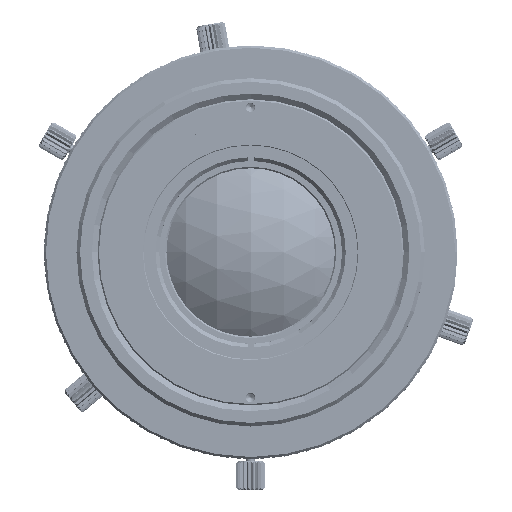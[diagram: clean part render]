
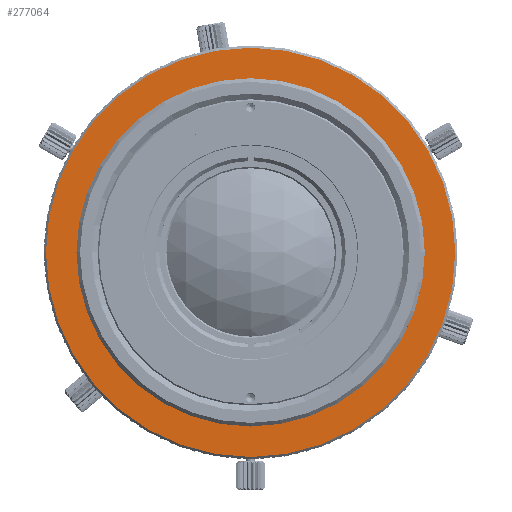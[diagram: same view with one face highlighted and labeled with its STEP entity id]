
A CAD part, top view. The second image highlights one B-rep face of the part: STEP entity #277064.
In plain terms, the highlighted planar face has unit normal (0, 0, 1).
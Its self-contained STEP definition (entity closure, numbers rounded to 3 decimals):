
#276362=CARTESIAN_POINT('',(0.,0.,75.3));
#276363=DIRECTION('',(0.,0.,1.));
#276364=DIRECTION('',(-1.,0.,0.));
#276365=AXIS2_PLACEMENT_3D('',#276362,#276363,#276364);
#276367=CARTESIAN_POINT('',(0.,0.,75.3));
#276368=DIRECTION('',(0.,0.,1.));
#276369=DIRECTION('',(1.,0.,0.));
#276370=AXIS2_PLACEMENT_3D('',#276367,#276368,#276369);
#276372=CARTESIAN_POINT('',(0.,0.,75.3));
#276373=DIRECTION('',(0.,0.,-1.));
#276374=DIRECTION('',(-1.,0.,0.));
#276375=AXIS2_PLACEMENT_3D('',#276372,#276373,#276374);
#276377=CARTESIAN_POINT('',(0.,0.,75.3));
#276378=DIRECTION('',(0.,0.,-1.));
#276379=DIRECTION('',(1.,0.,0.));
#276380=AXIS2_PLACEMENT_3D('',#276377,#276378,#276379);
#276665=CARTESIAN_POINT('',(28.2,0.,75.3));
#276666=CARTESIAN_POINT('',(-28.2,0.,75.3));
#276667=VERTEX_POINT('',#276665);
#276668=VERTEX_POINT('',#276666);
#276711=CARTESIAN_POINT('',(23.7,0.,75.3));
#276712=VERTEX_POINT('',#276711);
#276715=CARTESIAN_POINT('',(-23.7,0.,75.3));
#276716=VERTEX_POINT('',#276715);
#277048=CARTESIAN_POINT('',(0.,28.2,75.3));
#277049=DIRECTION('',(0.,0.,-1.));
#277050=DIRECTION('',(-1.,0.,0.));
#277051=AXIS2_PLACEMENT_3D('',#277048,#277049,#277050);
#277052=PLANE('',#277051);
#277054=ORIENTED_EDGE('',*,*,#277053,.F.);
#277055=ORIENTED_EDGE('',*,*,#277038,.F.);
#277056=EDGE_LOOP('',(#277054,#277055));
#277057=FACE_OUTER_BOUND('',#277056,.F.);
#277059=ORIENTED_EDGE('',*,*,#277058,.F.);
#277061=ORIENTED_EDGE('',*,*,#277060,.F.);
#277062=EDGE_LOOP('',(#277059,#277061));
#277063=FACE_BOUND('',#277062,.F.);
#276366=CIRCLE('',#276365,28.2);
#276371=CIRCLE('',#276370,28.2);
#276376=CIRCLE('',#276375,23.7);
#276381=CIRCLE('',#276380,23.7);
#277038=EDGE_CURVE('',#276667,#276668,#276371,.T.);
#277053=EDGE_CURVE('',#276668,#276667,#276366,.T.);
#277058=EDGE_CURVE('',#276716,#276712,#276376,.T.);
#277060=EDGE_CURVE('',#276712,#276716,#276381,.T.);
#277064=ADVANCED_FACE('',(#277057,#277063),#277052,.F.);
